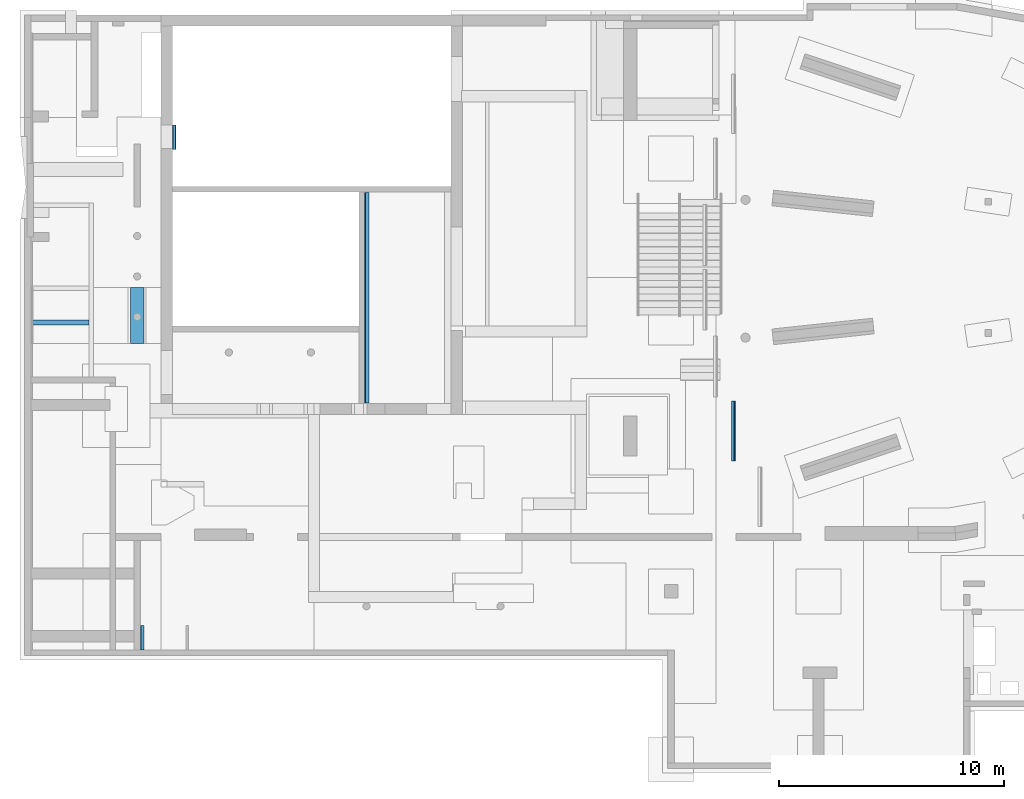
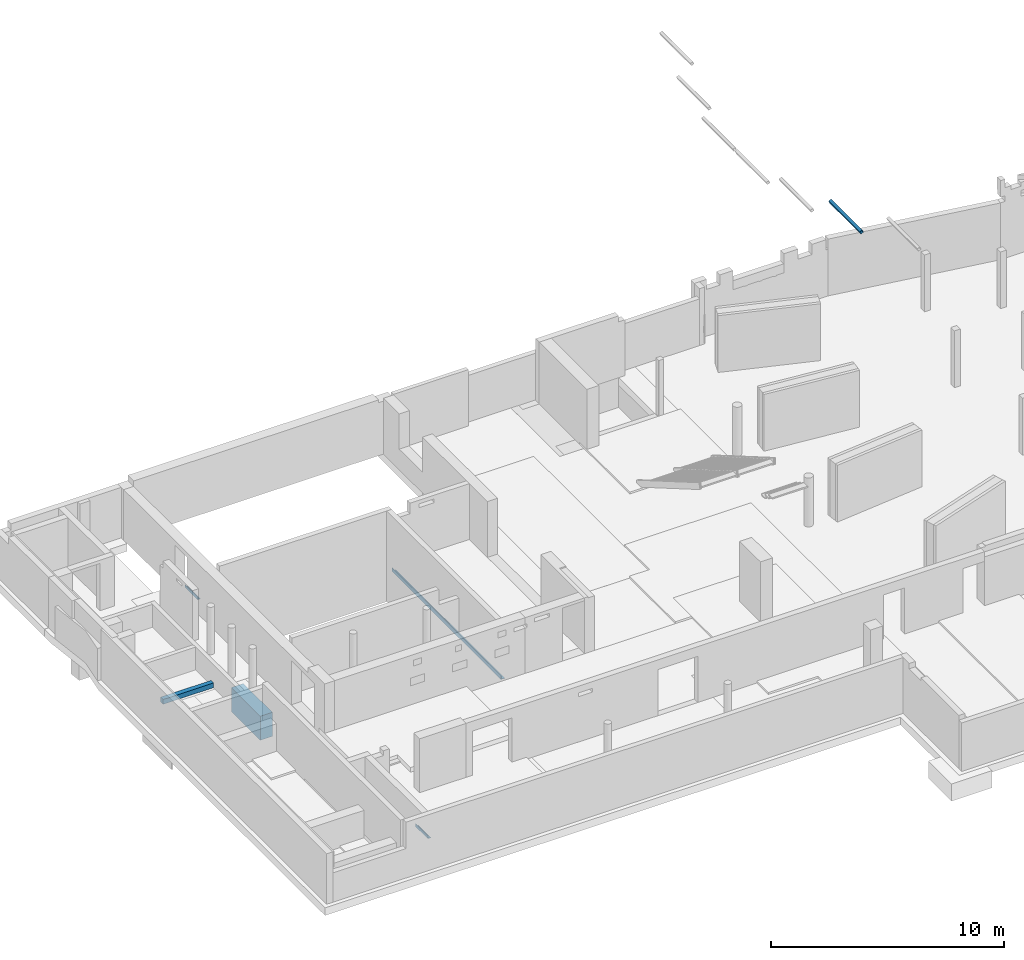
# One storey, part 22 of 42: 6 beams.
"""IFC2X3 building model written with IfcOpenShell, lengths in millimetres."""

from ifc_helpers import new_model, entity, si_unit, converted_unit, derived_unit, direction, frame, frame_2d, origin, place, context, subcontext, project, spatial, polyline, circle_curve, parameter, trimmed, segment, composite_curve, rectangle, outline, extrude, material, type_object, element, save


model = new_model("IFC2X3")

# Units and contexts
model_context = context("Model", 3, precision=0.01, world=origin(), true_north=direction((6.12303176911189e-17, 1.0)))
body_context = subcontext(model_context, "Body", "Model", "MODEL_VIEW")
ifc_project = project(units=[si_unit("LENGTHUNIT", "METRE", prefix="MILLI"), si_unit("AREAUNIT", "SQUARE_METRE", prefix="MILLI"), si_unit("VOLUMEUNIT", "CUBIC_METRE"), converted_unit("PLANEANGLEUNIT", "DEGREE", entity("IfcRatioMeasure", 0.0174532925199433), si_unit("PLANEANGLEUNIT", "RADIAN"), dimensions=[0, 0, 0, 0, 0, 0, 0]), si_unit("MASSUNIT", "GRAM", prefix="KILO"), derived_unit("MASSDENSITYUNIT", [(si_unit("MASSUNIT", "GRAM", prefix="KILO"), 1), (si_unit("LENGTHUNIT", "METRE"), -3)]), derived_unit("MOMENTOFINERTIAUNIT", [(si_unit("LENGTHUNIT", "METRE"), 4)]), si_unit("TIMEUNIT", "SECOND"), si_unit("FREQUENCYUNIT", "HERTZ"), si_unit("THERMODYNAMICTEMPERATUREUNIT", "DEGREE_CELSIUS"), derived_unit("THERMALTRANSMITTANCEUNIT", [(si_unit("MASSUNIT", "GRAM", prefix="KILO"), 1), (si_unit("THERMODYNAMICTEMPERATUREUNIT", "KELVIN"), -1), (si_unit("TIMEUNIT", "SECOND"), -3)]), derived_unit("VOLUMETRICFLOWRATEUNIT", [(si_unit("LENGTHUNIT", "METRE"), 3), (si_unit("TIMEUNIT", "SECOND"), -1)]), si_unit("ELECTRICCURRENTUNIT", "AMPERE"), si_unit("ELECTRICVOLTAGEUNIT", "VOLT"), si_unit("POWERUNIT", "WATT"), si_unit("FORCEUNIT", "NEWTON", prefix="KILO"), si_unit("ILLUMINANCEUNIT", "LUX"), si_unit("LUMINOUSFLUXUNIT", "LUMEN"), si_unit("LUMINOUSINTENSITYUNIT", "CANDELA"), derived_unit("USERDEFINED", [(si_unit("MASSUNIT", "GRAM", prefix="KILO"), -1), (si_unit("LENGTHUNIT", "METRE"), -2), (si_unit("TIMEUNIT", "SECOND"), 3), (si_unit("LUMINOUSFLUXUNIT", "LUMEN"), 1)]), derived_unit("LINEARVELOCITYUNIT", [(si_unit("LENGTHUNIT", "METRE"), 1), (si_unit("TIMEUNIT", "SECOND"), -1)]), si_unit("PRESSUREUNIT", "PASCAL"), derived_unit("USERDEFINED", [(si_unit("LENGTHUNIT", "METRE"), -2), (si_unit("MASSUNIT", "GRAM", prefix="KILO"), 1), (si_unit("TIMEUNIT", "SECOND"), -2)]), derived_unit("LINEARFORCEUNIT", [(si_unit("MASSUNIT", "GRAM", prefix="KILO"), 1), (si_unit("LENGTHUNIT", "METRE"), 1), (si_unit("TIMEUNIT", "SECOND"), -2), (si_unit("LENGTHUNIT", "METRE"), -1)]), derived_unit("PLANARFORCEUNIT", [(si_unit("MASSUNIT", "GRAM", prefix="KILO"), 1), (si_unit("LENGTHUNIT", "METRE"), 1), (si_unit("TIMEUNIT", "SECOND"), -2), (si_unit("LENGTHUNIT", "METRE"), -2)])], contexts=[model_context])

# Site, building, storey
site_placement = place(None, origin())
site = spatial("IfcSite", under=ifc_project, at=site_placement, Name="Theater aan de Parade", CompositionType="ELEMENT")
building_placement = place(site_placement, origin())
building = spatial("IfcBuilding", under=site, at=building_placement, Name="Theater aan de Parade", CompositionType="ELEMENT")
storey_placement = place(building_placement, frame((0.0, 0.0, -3300.0)))
storey = spatial("IfcBuildingStorey", under=building, at=storey_placement, Name="-1 kelder", CompositionType="ELEMENT", Elevation=-3300.0)

# Beams
ifc_material_1 = material(Name="00_PBT_MAT_staal_S355")
beam_type_1 = type_object("IfcBeamType", Name="28_PBT_SF_staal_L-profiel:S355_L150x150x15", PredefinedType="NOTDEFINED")
beam_1_placement = place(storey_placement, frame((16817.5000000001, 37708.9974887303, 0.0), z_axis=(0.0, 0.0, 1.0), x_axis=(0.0, 1.0, 0.0)))
element("IfcBeam", 1, at=beam_1_placement, inside=storey, type_object=beam_type_1, material=ifc_material_1, Name="28_PBT_SF_staal_L-profiel:S355_L150x150x15", ObjectType="28_PBT_SF_staal_L-profiel:S355_L150x150x15", context=body_context, shape_type="SweptSolid", body=[
    extrude(outline(composite_curve([segment(polyline([(49.6666666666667, -93.3333333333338), (56.6666666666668, -93.3333333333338)]), True, "CONTINUOUS"), segment(polyline([(56.6666666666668, -93.3333333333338), (56.6666666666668, 56.6666666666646)]), True, "CONTINUOUS"), segment(polyline([(56.6666666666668, 56.6666666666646), (-93.3333333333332, 56.6666666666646)]), True, "CONTINUOUS"), segment(polyline([(-93.3333333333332, 56.6666666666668), (-93.3333333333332, 49.6666666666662)]), True, "CONTINUOUS"), segment(trimmed(circle_curve(frame_2d((-85.3333333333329, 49.6666666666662), x_axis=(-1.0, 0.0)), 8.00000000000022), [parameter(0.0)], [parameter(90.0000000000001)], True, "PARAMETER"), True, "CONTINUOUS"), segment(polyline([(-85.3333333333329, 41.6666666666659), (25.6666666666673, 41.6666666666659)]), True, "CONTINUOUS"), segment(trimmed(circle_curve(frame_2d((25.6666666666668, 25.6666666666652), x_axis=(0.0, 1.0)), 16.0000000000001), [parameter(270.0)], [parameter(0.0)], True, "PARAMETER"), False, "CONTINUOUS"), segment(polyline([(41.6666666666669, 25.6666666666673), (41.6666666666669, -85.3333333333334)]), True, "CONTINUOUS"), segment(trimmed(circle_curve(frame_2d((49.6666666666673, -85.3333333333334), x_axis=(-1.0, 0.0)), 8.00000000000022), [parameter(0.0)], [parameter(90.0000000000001)], True, "PARAMETER"), True, "CONTINUOUS")], self_intersect=False)), frame((0.0, -14.1666666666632, 36.6666666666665), z_axis=(1.0, 0.0, 0.0), x_axis=(0.0, 0.0, -1.0)), (0.0, 0.0, 1.0), 1087.00060166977),
])
beam_2_placement = place(storey_placement, frame((15396.357002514, 15440.0, 0.0), z_axis=(0.0, 0.0, 1.0), x_axis=(0.0, 1.0, 0.0)))
element("IfcBeam", 2, at=beam_2_placement, inside=storey, type_object=beam_type_1, material=ifc_material_1, Name="28_PBT_SF_staal_L-profiel:S355_L150x150x15", ObjectType="28_PBT_SF_staal_L-profiel:S355_L150x150x15", context=body_context, shape_type="SweptSolid", body=[
    extrude(outline(composite_curve([segment(polyline([(49.6666666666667, -93.3333333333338), (56.6666666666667, -93.3333333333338)]), True, "CONTINUOUS"), segment(polyline([(56.6666666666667, -93.3333333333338), (56.6666666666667, 56.6666666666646)]), True, "CONTINUOUS"), segment(polyline([(56.6666666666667, 56.6666666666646), (-93.3333333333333, 56.6666666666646)]), True, "CONTINUOUS"), segment(polyline([(-93.3333333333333, 56.6666666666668), (-93.3333333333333, 49.6666666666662)]), True, "CONTINUOUS"), segment(trimmed(circle_curve(frame_2d((-85.3333333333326, 49.6666666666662), x_axis=(-1.0, 0.0)), 8.00000000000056), [parameter(0.0)], [parameter(89.9999999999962)], True, "PARAMETER"), True, "CONTINUOUS"), segment(polyline([(-85.3333333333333, 41.6666666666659), (25.6666666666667, 41.6666666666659)]), True, "CONTINUOUS"), segment(trimmed(circle_curve(frame_2d((25.6666666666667, 25.6666666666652), x_axis=(0.0, 1.0)), 15.9999999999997), [parameter(270.0)], [parameter(0.0)], True, "PARAMETER"), False, "CONTINUOUS"), segment(polyline([(41.6666666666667, 25.6666666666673), (41.6666666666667, -85.3333333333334)]), True, "CONTINUOUS"), segment(trimmed(circle_curve(frame_2d((49.6666666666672, -85.3333333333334), x_axis=(-1.0, 0.0)), 8.00000000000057), [parameter(0.0)], [parameter(89.9999999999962)], True, "PARAMETER"), True, "CONTINUOUS")], self_intersect=False)), frame((0.0, -14.1666666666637, 1494.66666666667), z_axis=(1.0, 0.0, 0.0), x_axis=(0.0, 0.0, -1.0)), (0.0, 0.0, 1.0), 1073.58968964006),
])
beam_type_2 = type_object("IfcBeamType", Name="28_PBT_SF_staal_L-profiel:S355_L200x200x20", PredefinedType="NOTDEFINED")
beam_3_placement = place(storey_placement, frame((25381.8000000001, 26160.0, 0.0), z_axis=(0.0, 0.0, 1.0), x_axis=(0.0, 1.0, 0.0)))
element("IfcBeam", 3, at=beam_3_placement, inside=storey, type_object=beam_type_2, material=ifc_material_1, Name="28_PBT_SF_staal_L-profiel:S355_L200x200x20", ObjectType="28_PBT_SF_staal_L-profiel:S355_L200x200x20", context=body_context, shape_type="SweptSolid", body=[
    extrude(outline(composite_curve([segment(polyline([(64.5555555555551, -124.444444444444), (75.5555555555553, -124.444444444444)]), True, "CONTINUOUS"), segment(polyline([(75.5555555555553, -124.444444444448), (75.5555555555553, 75.5555555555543)]), True, "CONTINUOUS"), segment(polyline([(75.5555555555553, 75.5555555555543), (-124.444444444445, 75.5555555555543)]), True, "CONTINUOUS"), segment(polyline([(-124.444444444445, 75.5555555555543), (-124.444444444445, 64.5555555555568)]), True, "CONTINUOUS"), segment(trimmed(circle_curve(frame_2d((-115.444444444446, 64.5555555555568), x_axis=(-1.0, 0.0)), 8.9999999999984), [parameter(0.0)], [parameter(90.0000000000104)], True, "PARAMETER"), True, "CONTINUOUS"), segment(polyline([(-115.444444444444, 55.5555555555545), (37.5555555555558, 55.5555555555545)]), True, "CONTINUOUS"), segment(trimmed(circle_curve(frame_2d((37.5555555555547, 37.5555555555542), x_axis=(0.0, 1.0)), 18.0000000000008), [parameter(270.000000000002)], [parameter(0.0)], True, "PARAMETER"), False, "CONTINUOUS"), segment(polyline([(55.5555555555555, 37.5555555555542), (55.5555555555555, -115.444444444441)]), True, "CONTINUOUS"), segment(trimmed(circle_curve(frame_2d((64.555555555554, -115.444444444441), x_axis=(-1.0, 0.0)), 8.9999999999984), [parameter(0.0)], [parameter(90.0000000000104)], True, "PARAMETER"), True, "CONTINUOUS")], self_intersect=False)), frame((262.700000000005, -18.7555555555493, -284.444444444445), z_axis=(1.0, 0.0, 0.0), x_axis=(0.0, 0.0, -1.0)), (0.0, 0.0, 1.0), 9377.59999999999),
])
ifc_material_2 = material(Name="00_PBT_MAT_beton t.p.g._C30/37")
beam_type_3 = type_object("IfcBeamType", Name="28_PBT_SF_betonbalk:C30/37_600x1460", PredefinedType="NOTDEFINED")
beam_4_placement = place(storey_placement, frame((15203.8570025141, 29065.0, 0.0), z_axis=(0.0, 0.0, 1.0), x_axis=(0.0, 1.0, 0.0)))
element("IfcBeam", 4, at=beam_4_placement, inside=storey, type_object=beam_type_3, material=ifc_material_2, Name="28_PBT_SF_betonbalk:C30/37_600x1460", ObjectType="28_PBT_SF_betonbalk:C30/37_600x1460", context=body_context, shape_type="SweptSolid", body=[
    extrude(rectangle(XDim=1260.0, YDim=600.000000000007, at=frame_2d((-2.8421709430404e-13, -4.34852154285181e-12), x_axis=(1.0, 0.0))), frame((0.0, 0.0, -870.0), z_axis=(1.0, 0.0, 0.0), x_axis=(0.0, 0.0, -1.0)), (0.0, 0.0, 1.0), 2500.0),
])
beam_type_4 = type_object("IfcBeamType", Name="28_PBT_SF_betonbalk:C30/37_200x250_opstort", PredefinedType="NOTDEFINED")
beam_5_placement = place(storey_placement, frame((10521.6125537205, 30002.0, 0.0)))
element("IfcBeam", 5, at=beam_5_placement, inside=storey, type_object=beam_type_4, material=ifc_material_2, Name="28_PBT_SF_betonbalk:C30/37_200x250_opstort", ObjectType="28_PBT_SF_betonbalk:C30/37_200x250_opstort", context=body_context, shape_type="SweptSolid", body=[
    extrude(rectangle(XDim=250.0, YDim=220.000000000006, at=frame_2d((0.0, 6.50146603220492e-12), x_axis=(1.0, 0.0))), frame((32.4999999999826, 0.0, 1535.0), z_axis=(1.0, 0.0, 0.0), x_axis=(0.0, 0.0, -1.0)), (0.0, 0.0, 1.0), 2499.99999998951),
])
beam_type_5 = type_object("IfcBeamType", Name="28_PBT_SF_staal_koker:S355_K200x200x10", PredefinedType="NOTDEFINED")
beam_6_placement = place(storey_placement, frame((41631.7813587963, 26514.2379914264, 19238.5038463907), z_axis=(0.0, 0.0, 1.0), x_axis=(0.0, -1.0, 0.0)))
element("IfcBeam", 6, at=beam_6_placement, inside=storey, type_object=beam_type_5, material=ifc_material_1, Name="28_PBT_SF_staal_koker:S355_K200x200x10", ObjectType="28_PBT_SF_staal_koker:S355_K200x200x10", context=body_context, shape_type="SweptSolid", body=[
    extrude(outline(composite_curve([segment(polyline([(-60.0, -75.0), (60.0, -75.0)]), True, "CONTINUOUS"), segment(trimmed(circle_curve(frame_2d((60.0, -60.0), x_axis=(0.0, 1.0)), 15.0), [parameter(180.0)], [parameter(270.0)], True, "PARAMETER"), True, "CONTINUOUS"), segment(polyline([(75.0, -60.0), (75.0, 60.0)]), True, "CONTINUOUS"), segment(trimmed(circle_curve(frame_2d((60.0, 60.0), x_axis=(0.0, 1.0)), 15.0), [parameter(270.0)], [parameter(360.0)], True, "PARAMETER"), True, "CONTINUOUS"), segment(polyline([(60.0, 75.0), (-60.0, 75.0)]), True, "CONTINUOUS"), segment(trimmed(circle_curve(frame_2d((-60.0, 60.0), x_axis=(0.0, 1.0)), 15.0), [parameter(0.0)], [parameter(90.0000000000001)], True, "PARAMETER"), True, "CONTINUOUS"), segment(polyline([(-75.0, 60.0), (-75.0, -60.0)]), True, "CONTINUOUS"), segment(trimmed(circle_curve(frame_2d((-60.0, -60.0), x_axis=(0.0, 1.0)), 15.0), [parameter(90.0)], [parameter(180.0)], True, "PARAMETER"), True, "CONTINUOUS")], self_intersect=False), holes=[composite_curve([segment(polyline([(65.0, 55.0), (65.0, -55.0)]), True, "CONTINUOUS"), segment(trimmed(circle_curve(frame_2d((55.0, -55.0), x_axis=(0.0, 1.0)), 10.0), [parameter(180.0)], [parameter(270.0)], True, "PARAMETER"), False, "CONTINUOUS"), segment(polyline([(55.0, -65.0), (-55.0, -65.0)]), True, "CONTINUOUS"), segment(trimmed(circle_curve(frame_2d((-55.0, -55.0), x_axis=(0.0, 1.0)), 10.0), [parameter(90.0)], [parameter(180.0)], True, "PARAMETER"), False, "CONTINUOUS"), segment(polyline([(-65.0, -55.0), (-65.0, 55.0)]), True, "CONTINUOUS"), segment(trimmed(circle_curve(frame_2d((-55.0, 55.0), x_axis=(0.0, 1.0)), 10.0), [parameter(4.07110999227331e-13)], [parameter(90.0000000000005)], True, "PARAMETER"), False, "CONTINUOUS"), segment(polyline([(-55.0, 65.0), (55.0, 65.0)]), True, "CONTINUOUS"), segment(trimmed(circle_curve(frame_2d((55.0, 55.0), x_axis=(0.0, 1.0)), 10.0), [parameter(270.0)], [parameter(0.0)], True, "PARAMETER"), False, "CONTINUOUS")], self_intersect=False)]), frame((0.0, 108.975369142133, -279.50736827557), z_axis=(1.0, 0.0, 0.0), x_axis=(0.0, -0.363251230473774, 0.931691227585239)), (0.0, 0.0, 1.0), 2675.30135878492),
])

save(model, "model.ifc")
